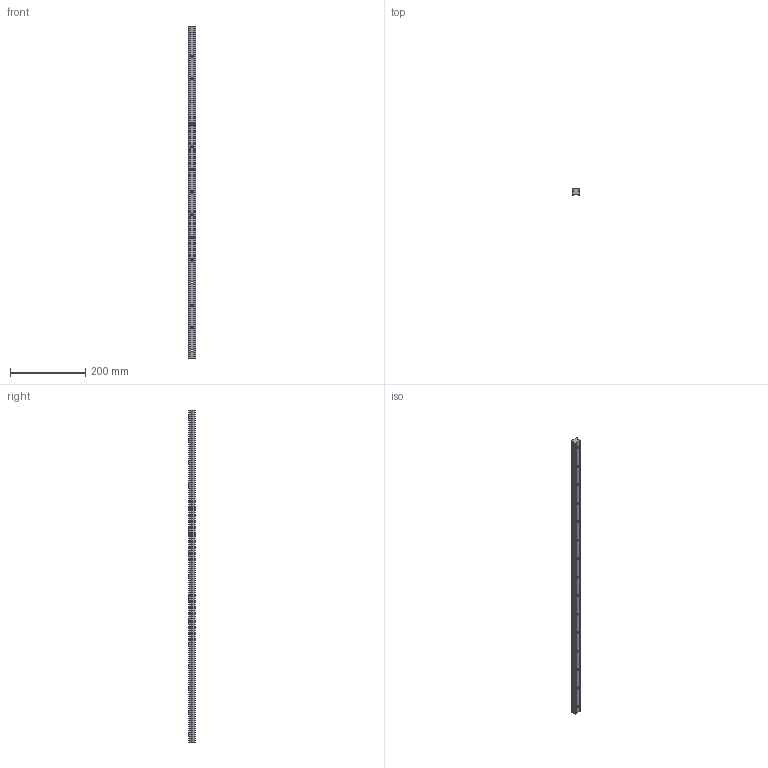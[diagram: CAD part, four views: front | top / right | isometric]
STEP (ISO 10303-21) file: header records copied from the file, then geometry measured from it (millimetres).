
FILE_DESCRIPTION (( 'STEP AP203' ), '1' );
FILE_NAME ('L1016.BL20-0880.step', '2019-06-12T11:47:39', ( '' ), ( '' ), 'SwSTEP 2.0', 'SolidWorks 2017', '' );
FILE_SCHEMA (( 'CONFIG_CONTROL_DESIGN' ));
Length unit declared in the file: millimetre
Products named in the file (1): L1016.BL20-0880
Bounding box: 20 x 16.3 x 880 mm (x, y, z)
Volume: 244429.8 mm3; surface area: 71268 mm2
Topology: 1 solids, 1 shells, 101 faces, 252 edges, 168 vertices
Faces by surface type: cylinder 64, plane 37
Entity records: 3211 total; most frequent: DIRECTION 584, CARTESIAN_POINT 522, ORIENTED_EDGE 504, EDGE_CURVE 252, AXIS2_PLACEMENT_3D 230, VERTEX_POINT 168, EDGE_LOOP 146, CIRCLE 128
